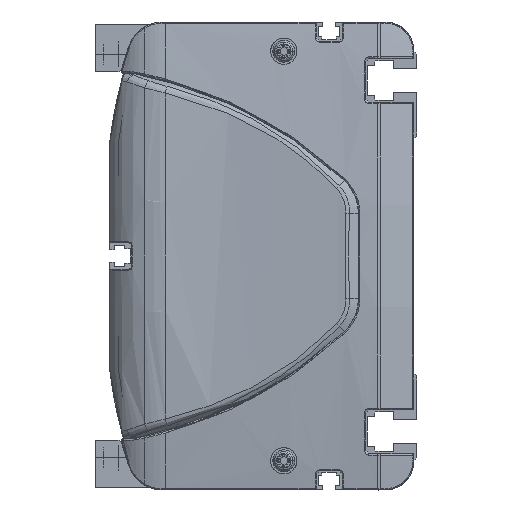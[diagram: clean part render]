
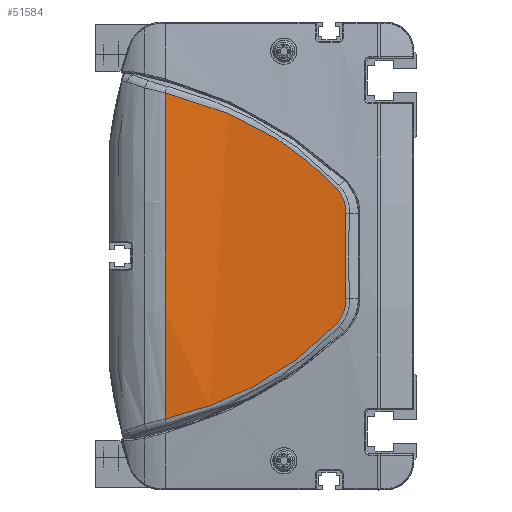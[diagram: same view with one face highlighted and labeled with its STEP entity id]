
A CAD part, left-side view. The second image highlights one B-rep face of the part: STEP entity #51584.
In plain terms, the highlighted cylindrical face has radius 600 mm (diameter 1200 mm), a partial arc.
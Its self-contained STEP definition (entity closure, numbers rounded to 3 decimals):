
#46615=CARTESIAN_POINT('',(-12.406,86.,
55.736));
#46616=CARTESIAN_POINT('',(-12.529,80.495,
54.41));
#46617=CARTESIAN_POINT('',(-12.828,69.636,
51.114));
#46618=CARTESIAN_POINT('',(-13.389,54.079,
44.179));
#46619=CARTESIAN_POINT('',(-14.01,39.709,
34.979));
#46620=CARTESIAN_POINT('',(-14.395,31.353,
27.243));
#46621=CARTESIAN_POINT('',(-14.555,27.451,
23.113));
#46623=CARTESIAN_POINT('',(-14.555,27.451,
23.113));
#46624=CARTESIAN_POINT('',(-14.641,25.336,
20.875));
#46625=CARTESIAN_POINT('',(-14.745,24.202,
17.745));
#46626=CARTESIAN_POINT('',(-14.821,24.351,
14.67));
#46628=CARTESIAN_POINT('',(-14.821,24.351,
14.67));
#46629=CARTESIAN_POINT('',(-14.9,24.51,
11.413));
#46630=CARTESIAN_POINT('',(-15.007,24.721,
4.895));
#46631=CARTESIAN_POINT('',(-15.007,24.721,
-4.895));
#46632=CARTESIAN_POINT('',(-14.9,24.51,
-11.413));
#46633=CARTESIAN_POINT('',(-14.821,24.351,
-14.67));
#46635=CARTESIAN_POINT('',(-14.821,24.351,
-14.67));
#46636=CARTESIAN_POINT('',(-14.745,24.202,
-17.745));
#46637=CARTESIAN_POINT('',(-14.641,25.337,
-20.876));
#46638=CARTESIAN_POINT('',(-14.555,27.451,
-23.113));
#46640=CARTESIAN_POINT('',(-14.555,27.451,
-23.113));
#46641=CARTESIAN_POINT('',(-14.395,31.353,
-27.243));
#46642=CARTESIAN_POINT('',(-14.01,39.709,
-34.979));
#46643=CARTESIAN_POINT('',(-13.389,54.079,
-44.179));
#46644=CARTESIAN_POINT('',(-12.828,69.636,
-51.114));
#46645=CARTESIAN_POINT('',(-12.529,80.495,
-54.41));
#46646=CARTESIAN_POINT('',(-12.406,86.,
-55.736));
#46648=CARTESIAN_POINT('',(585.,86.,0.));
#46649=DIRECTION('',(0.,1.,0.));
#46650=DIRECTION('',(-0.996,0.,-0.093));
#46651=AXIS2_PLACEMENT_3D('',#46648,#46649,#46650);
#46664=CARTESIAN_POINT('',(-12.406,86.,
55.736));
#47171=VERTEX_POINT('',#46664);
#47172=CARTESIAN_POINT('',(-12.406,86.,
-55.736));
#47173=VERTEX_POINT('',#47172);
#47225=VERTEX_POINT('',#46621);
#47226=VERTEX_POINT('',#46626);
#47227=VERTEX_POINT('',#46633);
#47228=VERTEX_POINT('',#46638);
#51566=CARTESIAN_POINT('',(585.,87.45,0.));
#51567=DIRECTION('',(0.,-1.,0.));
#51568=DIRECTION('',(0.,0.,-1.));
#51569=AXIS2_PLACEMENT_3D('',#51566,#51567,#51568);
#51570=CYLINDRICAL_SURFACE('',#51569,600.);
#51572=ORIENTED_EDGE('',*,*,#51571,.T.);
#51574=ORIENTED_EDGE('',*,*,#51573,.T.);
#51575=ORIENTED_EDGE('',*,*,#51556,.T.);
#51577=ORIENTED_EDGE('',*,*,#51576,.T.);
#51579=ORIENTED_EDGE('',*,*,#51578,.T.);
#51581=ORIENTED_EDGE('',*,*,#51580,.T.);
#51582=EDGE_LOOP('',(#51572,#51574,#51575,#51577,#51579,#51581));
#51583=FACE_OUTER_BOUND('',#51582,.F.);
#51584=ADVANCED_FACE('',(#51583),#51570,.T.);
#46622=B_SPLINE_CURVE_WITH_KNOTS('',3,(#46615,#46616,#46617,#46618,#46619,
#46620,#46621),.UNSPECIFIED.,.F.,.F.,(4,1,1,1,4),(0.,0.25,0.5,0.75,
1.),.UNSPECIFIED.);
#46627=B_SPLINE_CURVE_WITH_KNOTS('',3,(#46623,#46624,#46625,#46626),
.UNSPECIFIED.,.F.,.F.,(4,4),(0.,1.),.UNSPECIFIED.);
#46634=B_SPLINE_CURVE_WITH_KNOTS('',3,(#46628,#46629,#46630,#46631,#46632,
#46633),.UNSPECIFIED.,.F.,.F.,(4,1,1,4),(0.,0.333,
0.667,1.),.UNSPECIFIED.);
#46639=B_SPLINE_CURVE_WITH_KNOTS('',3,(#46635,#46636,#46637,#46638),
.UNSPECIFIED.,.F.,.F.,(4,4),(0.,1.),.UNSPECIFIED.);
#46647=B_SPLINE_CURVE_WITH_KNOTS('',3,(#46640,#46641,#46642,#46643,#46644,
#46645,#46646),.UNSPECIFIED.,.F.,.F.,(4,1,1,1,4),(0.,0.25,0.5,0.75,
1.),.UNSPECIFIED.);
#46652=CIRCLE('',#46651,600.);
#51556=EDGE_CURVE('',#47226,#47227,#46634,.T.);
#51571=EDGE_CURVE('',#47171,#47225,#46622,.T.);
#51573=EDGE_CURVE('',#47225,#47226,#46627,.T.);
#51576=EDGE_CURVE('',#47227,#47228,#46639,.T.);
#51578=EDGE_CURVE('',#47228,#47173,#46647,.T.);
#51580=EDGE_CURVE('',#47173,#47171,#46652,.T.);
